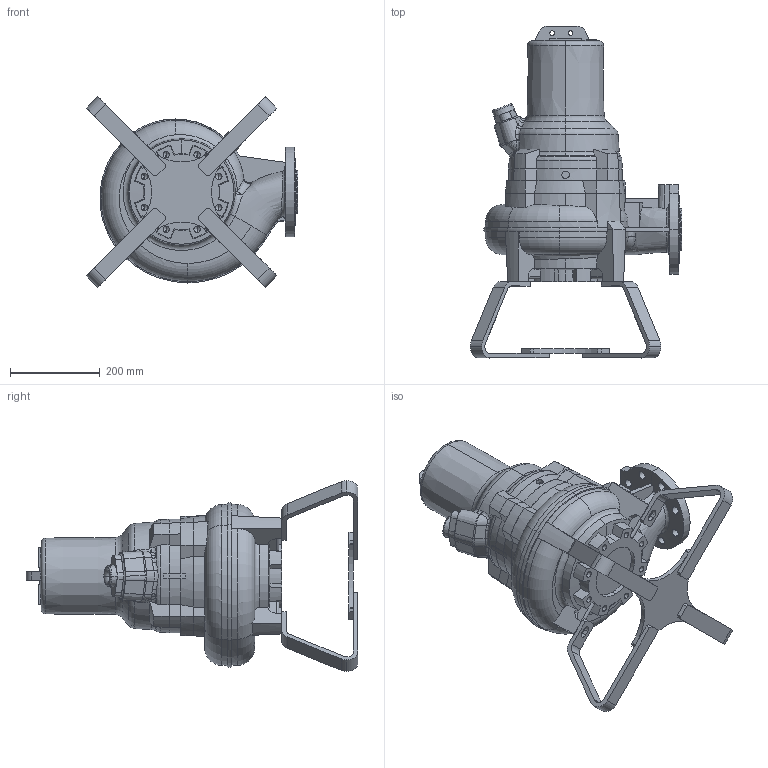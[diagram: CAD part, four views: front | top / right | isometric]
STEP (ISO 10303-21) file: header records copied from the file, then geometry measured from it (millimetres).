
FILE_DESCRIPTION (( 'STEP AP203' ), '1' );
FILE_NAME ('80FWC-M_2,2-3,1kW BASE FRAME.STEP', '2025-03-21T10:14:27', ( '' ), ( '' ), 'SwSTEP 2.0', 'SolidWorks 2023', '' );
FILE_SCHEMA (( 'CONFIG_CONTROL_DESIGN' ));
Length unit declared in the file: millimetre
Products named in the file (1): 80FWC-M_2,2-3,1kW BASE FRAME
Bounding box: 471.65 x 740 x 425.3 mm (x, y, z)
Volume: 29197666.6 mm3; surface area: 976403.8 mm2
Topology: 1 solids, 1 shells, 752 faces, 2035 edges, 1297 vertices
Faces by surface type: plane 327, cone 161, cylinder 118, bspline 77, torus 60, sphere 9
Entity records: 32799 total; most frequent: CARTESIAN_POINT 14689, ORIENTED_EDGE 4014, DIRECTION 3482, EDGE_CURVE 2007, AXIS2_PLACEMENT_3D 1335, VERTEX_POINT 1297, EDGE_LOOP 818, VECTOR 812
